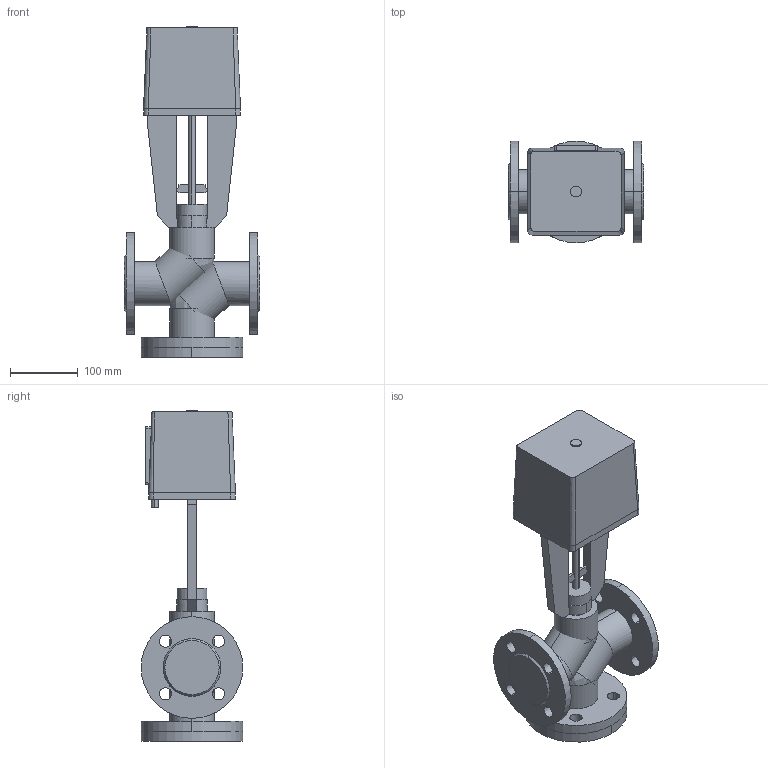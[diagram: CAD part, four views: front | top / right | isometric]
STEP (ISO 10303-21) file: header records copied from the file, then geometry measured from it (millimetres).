
FILE_DESCRIPTION(/* description */ (''),/* implementation_level */ '2;1');
FILE_NAME(/* name */ 'ТРК DN40 PN 1.6 МПа LEA 1200',/* time_stamp */ '2026-07-14T23:09:46+03:00',/* author */ (''),/* organization */ (''),/* preprocessor_version */ 'ST-DEVELOPER v20',/* originating_system */ '',/* authorisation */ '');
FILE_SCHEMA (('AP242_MANAGED_MODEL_BASED_3D_ENGINEERING_MIM_LF { 1 0 10303 442 1 1 4 }'));
Length unit declared in the file: millimetre
Products named in the file (14): TopLevelAssembly; Выдавливание; Модификатор; Модификатор_1; Выдавливание_
1; Выдавливание_
2; Вращение; Выдавливание_
3; Выдавливание_
4; 1600; Переход; Объемная геометрия 
присоединена; Полый Выдавливание; Объемная геометрия 
присоединена_1
Assembly tree (13 placements, depth 2):
  TopLevelAssembly
    Выдавливание
    Модификатор
    Модификатор_1
    Выдавливание_
1
    Выдавливание_
2
    Вращение
    Выдавливание_
3
    Выдавливание_
4
    1600
    Переход
    Объемная геометрия 
присоединена
    Полый Выдавливание
    Объемная геометрия 
присоединена_1
Bounding box: 200 x 150 x 488 mm (x, y, z)
Volume: 4604219.8 mm3; surface area: 485132.6 mm2
Topology: 18 solids, 18 shells, 159 faces, 366 edges, 240 vertices
Faces by surface type: plane 77, cylinder 70, bspline 8, cone 4
Entity records: 5164 total; most frequent: CARTESIAN_POINT 972, DIRECTION 882, ORIENTED_EDGE 716, EDGE_CURVE 358, AXIS2_PLACEMENT_3D 346, VERTEX_POINT 240, EDGE_LOOP 194, LINE 190
